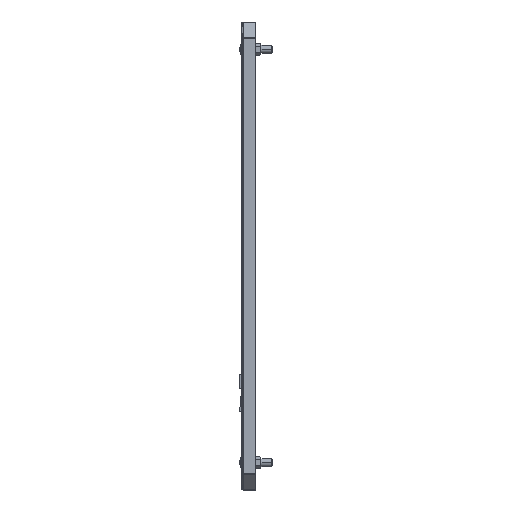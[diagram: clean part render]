
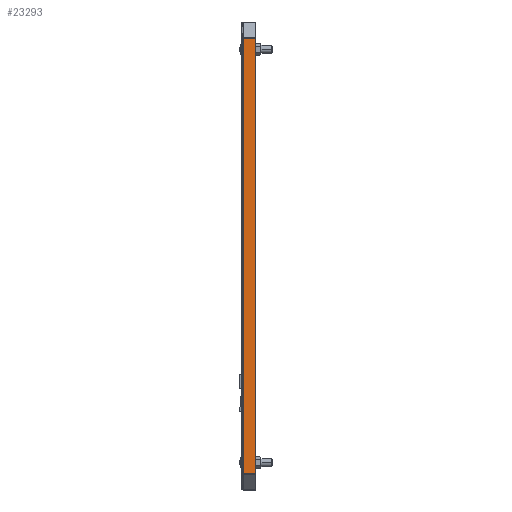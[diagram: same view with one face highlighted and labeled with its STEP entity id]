
A CAD part, left-side view. The second image highlights one B-rep face of the part: STEP entity #23293.
In plain terms, the highlighted planar face has unit normal (-1, 0, 0).
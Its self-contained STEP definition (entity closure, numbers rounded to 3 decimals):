
#2085 = EDGE_LOOP ( 'NONE', ( #36284, #36285, #36283, #36287 ) ) ;
#5149 = VECTOR ( 'NONE', #8493, 1000. ) ;
#5153 = VECTOR ( 'NONE', #8517, 1000. ) ;
#5156 = VECTOR ( 'NONE', #8535, 1000. ) ;
#7207 = FACE_OUTER_BOUND ( 'NONE', #2085, .T. ) ;
#7213 = AXIS2_PLACEMENT_3D ( 'NONE', #12360, #12361, #12362 ) ;
#8489 = LINE ( 'NONE', #8491, #5149 ) ;
#8491 = CARTESIAN_POINT ( 'NONE',  ( -400., -2.4, 280. ) ) ;
#8493 = DIRECTION ( 'NONE',  ( 0., 0., 1. ) ) ;
#8513 = LINE ( 'NONE', #8515, #5153 ) ;
#8515 = CARTESIAN_POINT ( 'NONE',  ( -400., -18., 280. ) ) ;
#8517 = DIRECTION ( 'NONE',  ( 0., 0., -1. ) ) ;
#8531 = LINE ( 'NONE', #8533, #5156 ) ;
#8533 = CARTESIAN_POINT ( 'NONE',  ( -400., -1.2, 279.395 ) ) ;
#8535 = DIRECTION ( 'NONE',  ( 0., -1., 0. ) ) ;
#8537 = LINE ( 'NONE', #8539, #40374 ) ;
#8539 = CARTESIAN_POINT ( 'NONE',  ( -400., -18., -279.395 ) ) ;
#8541 = DIRECTION ( 'NONE',  ( 0., -1., 0. ) ) ;
#12359 = PLANE ( 'NONE',  #7213 ) ;
#12360 = CARTESIAN_POINT ( 'NONE',  ( -400., -18., 280. ) ) ;
#12361 = DIRECTION ( 'NONE',  ( 1., 0., 0. ) ) ;
#12362 = DIRECTION ( 'NONE',  ( 0., 1., 0. ) ) ;
#15564 = CARTESIAN_POINT ( 'NONE',  ( -400., -2.4, -279.395 ) ) ;
#15566 = CARTESIAN_POINT ( 'NONE',  ( -400., -2.4, 279.395 ) ) ;
#15569 = CARTESIAN_POINT ( 'NONE',  ( -400., -18., -279.395 ) ) ;
#15571 = CARTESIAN_POINT ( 'NONE',  ( -400., -18., 279.395 ) ) ;
#21903 = VERTEX_POINT ( 'NONE', #15564 ) ;
#21905 = VERTEX_POINT ( 'NONE', #15566 ) ;
#21908 = VERTEX_POINT ( 'NONE', #15569 ) ;
#21910 = VERTEX_POINT ( 'NONE', #15571 ) ;
#23293 = ADVANCED_FACE ( 'NONE', ( #7207 ), #12359, .F. ) ;
#36283 = ORIENTED_EDGE ( 'NONE', *, *, #36991, .F. ) ;
#36284 = ORIENTED_EDGE ( 'NONE', *, *, #36987, .F. ) ;
#36285 = ORIENTED_EDGE ( 'NONE', *, *, #36995, .T. ) ;
#36287 = ORIENTED_EDGE ( 'NONE', *, *, #36994, .F. ) ;
#36987 = EDGE_CURVE ( 'NONE', #21903, #21905, #8489, .T. ) ;
#36991 = EDGE_CURVE ( 'NONE', #21910, #21908, #8513, .T. ) ;
#36994 = EDGE_CURVE ( 'NONE', #21905, #21910, #8531, .T. ) ;
#36995 = EDGE_CURVE ( 'NONE', #21903, #21908, #8537, .T. ) ;
#40374 = VECTOR ( 'NONE', #8541, 1000. ) ;
